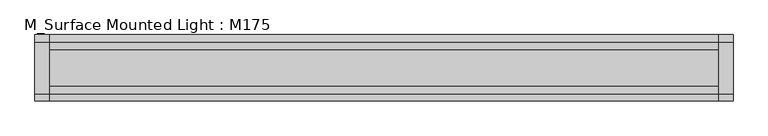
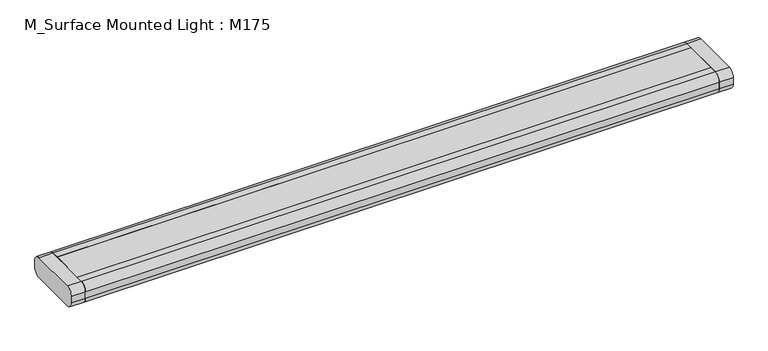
"""IFC4 building model written with IfcOpenShell, lengths in millimetres: light fixture geometry, M_Surface Mounted Light : M175."""

from ifc_helpers import new_model, si_unit, point, frame, frame_2d, origin, origin_with_axes, place, context, project, spatial, polyline, circle_curve, trimmed, segment, composite_curve, outline, extrude, source, transform, mapped, element, save


def m_surface_mounted_light_m175_61756e01(model_context):
    return source(origin(), model_context, "Body", "SweptSolid", [
        extrude(outline(composite_curve([segment(polyline([(114.3, 74.6), (114.3, 49.2)]), True, "CONTINUOUS"), segment(trimmed(circle_curve(frame_2d((88.9, 49.2)), 25.4), [point((114.3, 49.2))], [point((88.9, 23.8))], False, "CARTESIAN"), True, "CONTINUOUS"), segment(polyline([(88.9, 23.8), (-88.9, 23.8)]), True, "CONTINUOUS"), segment(trimmed(circle_curve(frame_2d((-88.9, 49.2)), 25.4), [point((-88.9, 23.8))], [point((-114.3, 49.2))], False, "CARTESIAN"), True, "CONTINUOUS"), segment(polyline([(-114.3, 49.2), (-114.3, 74.6)]), True, "CONTINUOUS"), segment(trimmed(circle_curve(frame_2d((-88.9, 74.6)), 25.4), [point((-114.3, 74.6))], [point((-88.9, 100.0))], False, "CARTESIAN"), True, "CONTINUOUS"), segment(polyline([(-88.9, 100.0), (-63.5, 100.0), (-63.5, 74.6), (63.5, 74.6), (63.5, 100.0), (88.9, 100.0)]), True, "CONTINUOUS"), segment(trimmed(circle_curve(frame_2d((88.9, 74.6)), 25.4), [point((88.9, 100.0))], [point((114.3, 74.6))], False, "CARTESIAN"), True, "CONTINUOUS")], self_intersect=False)), frame((-1149.2, 0.0, 0.0), z_axis=(1.0, 0.0, 0.0), x_axis=(0.0, 1.0, 0.0)), (0.0, 0.0, 1.0), 2298.4),
        extrude(outline(polyline([(1149.2, 63.5), (1149.2, -63.5), (-1149.2, -63.5), (-1149.2, 63.5), (1149.2, 63.5)])), frame((0.0, 0.0, 87.3), z_axis=(0.0, 0.0, 1.0), x_axis=(1.0, 0.0, 0.0)), (0.0, 0.0, 1.0), 12.7),
        extrude(outline(composite_curve([segment(trimmed(circle_curve(frame_2d((1123.8, 0.0)), 25.4), [point((1098.4, 0.0))], [point((1149.2, 0.0))], False, "CARTESIAN"), True, "CONTINUOUS"), segment(trimmed(circle_curve(frame_2d((1123.8, 0.0)), 25.4), [point((1149.2, 0.0))], [point((1098.4, 0.0))], False, "CARTESIAN"), True, "CONTINUOUS")], self_intersect=False)), origin_with_axes(), (0.0, 0.0, 1.0), 12.7),
        extrude(outline(composite_curve([segment(trimmed(circle_curve(frame_2d((-1123.8, 0.0)), 25.4), [point((-1149.2, 0.0))], [point((-1098.4, 0.0))], False, "CARTESIAN"), True, "CONTINUOUS"), segment(trimmed(circle_curve(frame_2d((-1123.8, 0.0)), 25.4), [point((-1098.4, 0.0))], [point((-1149.2, 0.0))], False, "CARTESIAN"), True, "CONTINUOUS")], self_intersect=False)), origin_with_axes(), (0.0, 0.0, 1.0), 12.7),
        extrude(outline(composite_curve([segment(trimmed(circle_curve(frame_2d((-88.9, 74.6)), 25.4), [point((-114.3, 74.6))], [point((-88.9, 100.0))], False, "CARTESIAN"), True, "CONTINUOUS"), segment(polyline([(-88.9, 100.0), (88.9, 100.0)]), True, "CONTINUOUS"), segment(trimmed(circle_curve(frame_2d((88.9, 74.6)), 25.4), [point((88.9, 100.0))], [point((114.3, 74.6))], False, "CARTESIAN"), True, "CONTINUOUS"), segment(polyline([(114.3, 74.6), (114.3, 49.2)]), True, "CONTINUOUS"), segment(trimmed(circle_curve(frame_2d((88.9, 49.2)), 25.4), [point((114.3, 49.2))], [point((88.9, 23.8))], False, "CARTESIAN"), True, "CONTINUOUS"), segment(polyline([(88.9, 23.8), (-88.9, 23.8)]), True, "CONTINUOUS"), segment(trimmed(circle_curve(frame_2d((-88.9, 49.2)), 25.4), [point((-88.9, 23.8))], [point((-114.3, 49.2))], False, "CARTESIAN"), True, "CONTINUOUS"), segment(polyline([(-114.3, 49.2), (-114.3, 74.6)]), True, "CONTINUOUS")], self_intersect=False)), frame((1149.2, 0.0, 0.0), z_axis=(1.0, 0.0, 0.0), x_axis=(0.0, 1.0, 0.0)), (0.0, 0.0, 1.0), 50.8),
        extrude(outline(composite_curve([segment(polyline([(114.3, 74.6), (114.3, 49.2)]), True, "CONTINUOUS"), segment(trimmed(circle_curve(frame_2d((88.9, 49.2)), 25.4), [point((114.3, 49.2))], [point((88.9, 23.8))], False, "CARTESIAN"), True, "CONTINUOUS"), segment(polyline([(88.9, 23.8), (-88.9, 23.8)]), True, "CONTINUOUS"), segment(trimmed(circle_curve(frame_2d((-88.9, 49.2)), 25.4), [point((-88.9, 23.8))], [point((-114.3, 49.2))], False, "CARTESIAN"), True, "CONTINUOUS"), segment(polyline([(-114.3, 49.2), (-114.3, 74.6)]), True, "CONTINUOUS"), segment(trimmed(circle_curve(frame_2d((-88.9, 74.6)), 25.4), [point((-114.3, 74.6))], [point((-88.9, 100.0))], False, "CARTESIAN"), True, "CONTINUOUS"), segment(polyline([(-88.9, 100.0), (88.9, 100.0)]), True, "CONTINUOUS"), segment(trimmed(circle_curve(frame_2d((88.9, 74.6)), 25.4), [point((88.9, 100.0))], [point((114.3, 74.6))], False, "CARTESIAN"), True, "CONTINUOUS")], self_intersect=False)), frame((-1200.0, 0.0, 0.0), z_axis=(1.0, 0.0, 0.0), x_axis=(0.0, 1.0, 0.0)), (0.0, 0.0, 1.0), 50.8),
        extrude(outline(composite_curve([segment(trimmed(circle_curve(frame_2d((1123.8, 0.0)), 3.1340604), [point((1120.6659396, 0.0))], [point((1126.9340604, 0.0))], False, "CARTESIAN"), True, "CONTINUOUS"), segment(trimmed(circle_curve(frame_2d((1123.8, 0.0)), 3.1340604), [point((1126.9340604, 0.0))], [point((1120.6659396, 0.0))], False, "CARTESIAN"), True, "CONTINUOUS")], self_intersect=False)), origin_with_axes(), (0.0, 0.0, 1.0), 23.8),
        extrude(outline(composite_curve([segment(trimmed(circle_curve(frame_2d((-1123.8, 0.0)), 3.175), [point((-1126.975, 0.0))], [point((-1120.625, 0.0))], False, "CARTESIAN"), True, "CONTINUOUS"), segment(trimmed(circle_curve(frame_2d((-1123.8, 0.0)), 3.175), [point((-1120.625, 0.0))], [point((-1126.975, 0.0))], False, "CARTESIAN"), True, "CONTINUOUS")], self_intersect=False)), origin_with_axes(), (0.0, 0.0, 1.0), 23.8),
    ])


if __name__ == "__main__":
    model = new_model("IFC4")
    model_context = context("Model", 3, world=origin())
    ifc_project = project(units=[si_unit("LENGTHUNIT", "METRE", prefix="MILLI")], contexts=[model_context])
    site = spatial("IfcSite", under=ifc_project)
    building = spatial("IfcBuilding", under=site)
    placement = place(None, origin())
    m_surface_mounted_light_m175_shape = m_surface_mounted_light_m175_61756e01(model_context)
    element("IfcLightFixture", 1, ObjectType="M_Surface Mounted Light : M175", at=placement, inside=building, context=model_context, shape_type="MappedRepresentation", body=[
        mapped(m_surface_mounted_light_m175_shape, transform((0.0, 0.0, 0.0), x_axis=(1.0, 0.0, 0.0), y_axis=(0.0, 1.0, 0.0), z_axis=(0.0, 0.0, 1.0))),
    ])
    save(model, "model.ifc")
